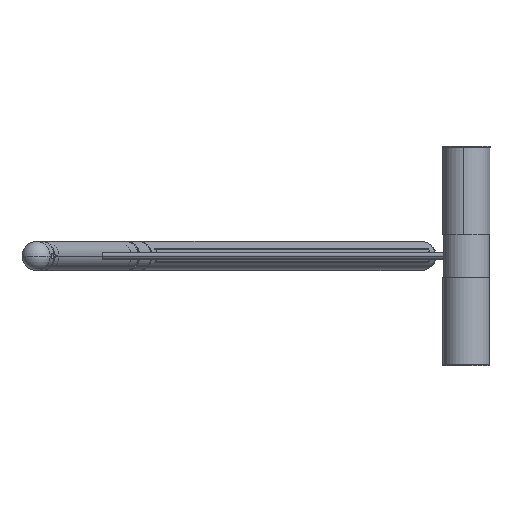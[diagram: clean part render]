
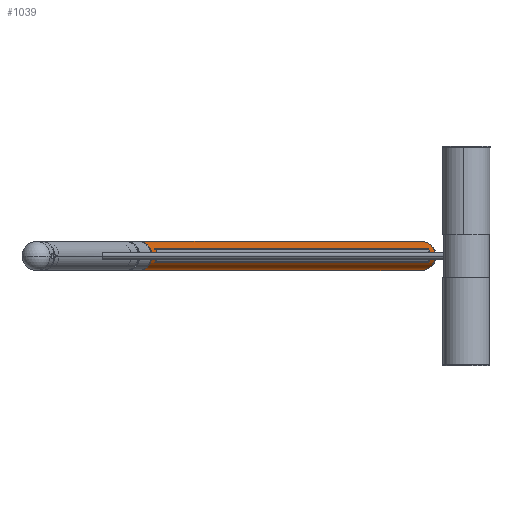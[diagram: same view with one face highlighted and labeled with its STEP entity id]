
A CAD part, front view. The second image highlights one B-rep face of the part: STEP entity #1039.
In plain terms, the highlighted cylindrical face has radius 20 mm (diameter 40 mm), a partial arc.
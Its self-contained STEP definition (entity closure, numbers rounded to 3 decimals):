
#54 = LINE ( 'NONE', #4096, #2691 ) ;
#181 = CARTESIAN_POINT ( 'NONE',  ( 1140., 0., 0. ) ) ;
#211 = VECTOR ( 'NONE', #3362, 1000. ) ;
#218 = CARTESIAN_POINT ( 'NONE',  ( 1120., 0., 0. ) ) ;
#278 = CARTESIAN_POINT ( 'NONE',  ( 1140., 0., -20. ) ) ;
#374 = EDGE_CURVE ( 'NONE', #1503, #2108, #3045, .T. ) ;
#401 = DIRECTION ( 'NONE',  ( -1., 0., 0. ) ) ;
#510 = ORIENTED_EDGE ( 'NONE', *, *, #3933, .F. ) ;
#552 = AXIS2_PLACEMENT_3D ( 'NONE', #218, #968, #3922 ) ;
#574 = CARTESIAN_POINT ( 'NONE',  ( 1120., -17.532, 9.625 ) ) ;
#618 = CARTESIAN_POINT ( 'NONE',  ( 1140., 0., 20. ) ) ;
#643 = LINE ( 'NONE', #2047, #211 ) ;
#883 = EDGE_CURVE ( 'NONE', #3578, #2174, #54, .T. ) ;
#889 = CIRCLE ( 'NONE', #1368, 20. ) ;
#907 = EDGE_CURVE ( 'NONE', #2808, #2418, #2235, .T. ) ;
#968 = DIRECTION ( 'NONE',  ( -1., 0., 0. ) ) ;
#990 = ORIENTED_EDGE ( 'NONE', *, *, #1462, .T. ) ;
#1039 = ADVANCED_FACE ( 'NONE', ( #3582, #3318 ), #3797, .T. ) ;
#1078 = ORIENTED_EDGE ( 'NONE', *, *, #907, .T. ) ;
#1134 = DIRECTION ( 'NONE',  ( 1., 0., 0. ) ) ;
#1249 = DIRECTION ( 'NONE',  ( -1., 0., 0. ) ) ;
#1310 = ORIENTED_EDGE ( 'NONE', *, *, #2439, .T. ) ;
#1325 = EDGE_CURVE ( 'NONE', #3568, #2692, #643, .T. ) ;
#1368 = AXIS2_PLACEMENT_3D ( 'NONE', #4087, #2075, #3083 ) ;
#1390 = EDGE_LOOP ( 'NONE', ( #510, #1078, #1310, #1760 ) ) ;
#1462 = EDGE_CURVE ( 'NONE', #2174, #2692, #1863, .T. ) ;
#1488 = CARTESIAN_POINT ( 'NONE',  ( 1140., -17.532, -9.625 ) ) ;
#1503 = VERTEX_POINT ( 'NONE', #1953 ) ;
#1516 = CARTESIAN_POINT ( 'NONE',  ( 1140., -17.532, 9.625 ) ) ;
#1522 = EDGE_CURVE ( 'NONE', #3568, #3578, #2054, .T. ) ;
#1616 = DIRECTION ( 'NONE',  ( -1., 0., 0. ) ) ;
#1760 = ORIENTED_EDGE ( 'NONE', *, *, #374, .T. ) ;
#1829 = CIRCLE ( 'NONE', #552, 20. ) ;
#1833 = ORIENTED_EDGE ( 'NONE', *, *, #1325, .F. ) ;
#1863 = CIRCLE ( 'NONE', #2593, 20. ) ;
#1939 = CARTESIAN_POINT ( 'NONE',  ( 0., 0., 20. ) ) ;
#1953 = CARTESIAN_POINT ( 'NONE',  ( 20., -17.532, 9.625 ) ) ;
#2002 = AXIS2_PLACEMENT_3D ( 'NONE', #181, #1616, #2190 ) ;
#2047 = CARTESIAN_POINT ( 'NONE',  ( 1140., 0., -20. ) ) ;
#2054 = CIRCLE ( 'NONE', #2002, 20. ) ;
#2075 = DIRECTION ( 'NONE',  ( -1., 0., 0. ) ) ;
#2108 = VERTEX_POINT ( 'NONE', #574 ) ;
#2174 = VERTEX_POINT ( 'NONE', #1939 ) ;
#2190 = DIRECTION ( 'NONE',  ( 0., 0., 1. ) ) ;
#2199 = EDGE_LOOP ( 'NONE', ( #1833, #2889, #3627, #990 ) ) ;
#2235 = LINE ( 'NONE', #1488, #3529 ) ;
#2266 = CARTESIAN_POINT ( 'NONE',  ( 0., 0., -20. ) ) ;
#2287 = CARTESIAN_POINT ( 'NONE',  ( 0., 0., 0. ) ) ;
#2418 = VERTEX_POINT ( 'NONE', #4111 ) ;
#2439 = EDGE_CURVE ( 'NONE', #2418, #1503, #889, .T. ) ;
#2593 = AXIS2_PLACEMENT_3D ( 'NONE', #2287, #3959, #3286 ) ;
#2691 = VECTOR ( 'NONE', #401, 1000. ) ;
#2692 = VERTEX_POINT ( 'NONE', #2266 ) ;
#2745 = VECTOR ( 'NONE', #1134, 1000. ) ;
#2808 = VERTEX_POINT ( 'NONE', #2920 ) ;
#2889 = ORIENTED_EDGE ( 'NONE', *, *, #1522, .T. ) ;
#2920 = CARTESIAN_POINT ( 'NONE',  ( 1120., -17.532, -9.625 ) ) ;
#3045 = LINE ( 'NONE', #1516, #2745 ) ;
#3083 = DIRECTION ( 'NONE',  ( 0., 0., 1. ) ) ;
#3286 = DIRECTION ( 'NONE',  ( 0., 0., -1. ) ) ;
#3318 = FACE_BOUND ( 'NONE', #1390, .T. ) ;
#3362 = DIRECTION ( 'NONE',  ( -1., 0., 0. ) ) ;
#3399 = AXIS2_PLACEMENT_3D ( 'NONE', #3947, #1249, #3569 ) ;
#3529 = VECTOR ( 'NONE', #4177, 1000. ) ;
#3568 = VERTEX_POINT ( 'NONE', #278 ) ;
#3569 = DIRECTION ( 'NONE',  ( 0., 0., 1. ) ) ;
#3578 = VERTEX_POINT ( 'NONE', #618 ) ;
#3582 = FACE_OUTER_BOUND ( 'NONE', #2199, .T. ) ;
#3627 = ORIENTED_EDGE ( 'NONE', *, *, #883, .T. ) ;
#3797 = CYLINDRICAL_SURFACE ( 'NONE', #3399, 20. ) ;
#3922 = DIRECTION ( 'NONE',  ( 0., 0., 1. ) ) ;
#3933 = EDGE_CURVE ( 'NONE', #2808, #2108, #1829, .T. ) ;
#3947 = CARTESIAN_POINT ( 'NONE',  ( 1140., 0., 0. ) ) ;
#3959 = DIRECTION ( 'NONE',  ( 1., 0., 0. ) ) ;
#4087 = CARTESIAN_POINT ( 'NONE',  ( 20., 0., 0. ) ) ;
#4096 = CARTESIAN_POINT ( 'NONE',  ( 1140., 0., 20. ) ) ;
#4111 = CARTESIAN_POINT ( 'NONE',  ( 20., -17.532, -9.625 ) ) ;
#4177 = DIRECTION ( 'NONE',  ( -1., 0., 0. ) ) ;
